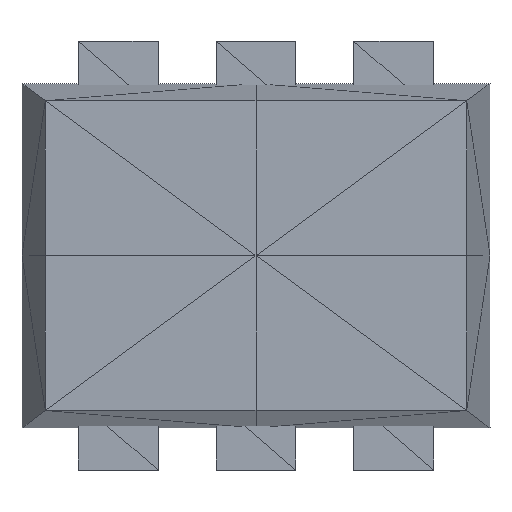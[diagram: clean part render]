
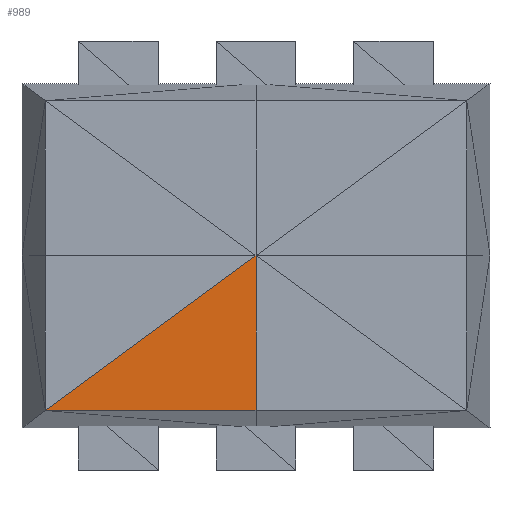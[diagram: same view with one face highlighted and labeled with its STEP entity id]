
A CAD part, top view. The second image highlights one B-rep face of the part: STEP entity #989.
In plain terms, the highlighted planar face has unit normal (0, 0, 1).
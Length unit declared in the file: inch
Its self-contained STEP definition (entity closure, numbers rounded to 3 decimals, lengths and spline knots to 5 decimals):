
#666=CARTESIAN_POINT('',(-0.153,-0.1125,0.17));
#667=VERTEX_POINT('',#666);
#711=CARTESIAN_POINT('',(0.,0.,0.17));
#712=VERTEX_POINT('',#711);
#909=CARTESIAN_POINT('',(0.,-0.1125,0.17));
#910=VERTEX_POINT('',#909);
#917=CARTESIAN_POINT('',(-0.153,-0.1125,0.17));
#918=DIRECTION('',(1.,0.,-0.));
#919=VECTOR('',#918,0.153);
#920=LINE('',#917,#919);
#921=EDGE_CURVE('',#667,#910,#920,.T.);
#933=CARTESIAN_POINT('',(-0.153,-0.1125,0.17));
#934=DIRECTION('',(0.806,0.592,0.));
#935=VECTOR('',#934,0.18991);
#936=LINE('',#933,#935);
#937=EDGE_CURVE('',#667,#712,#936,.T.);
#974=CARTESIAN_POINT('',(0.,0.,0.17));
#975=DIRECTION('',(0.,0.,1.));
#976=DIRECTION('',(1.,0.,0.));
#977=AXIS2_PLACEMENT_3D('',#974,#975,#976);
#978=PLANE('',#977);
#979=ORIENTED_EDGE('',*,*,#937,.F.);
#980=ORIENTED_EDGE('',*,*,#921,.T.);
#981=CARTESIAN_POINT('',(0.,-0.1125,0.17));
#982=DIRECTION('',(0.,1.,0.));
#983=VECTOR('',#982,0.1125);
#984=LINE('',#981,#983);
#985=EDGE_CURVE('',#910,#712,#984,.T.);
#986=ORIENTED_EDGE('',*,*,#985,.T.);
#987=EDGE_LOOP('',(#979,#980,#986));
#988=FACE_BOUND('',#987,.T.);
#989=ADVANCED_FACE('',(#988),#978,.T.);
